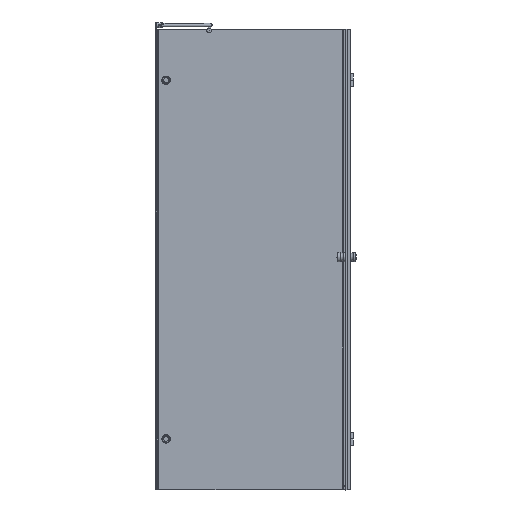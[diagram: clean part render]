
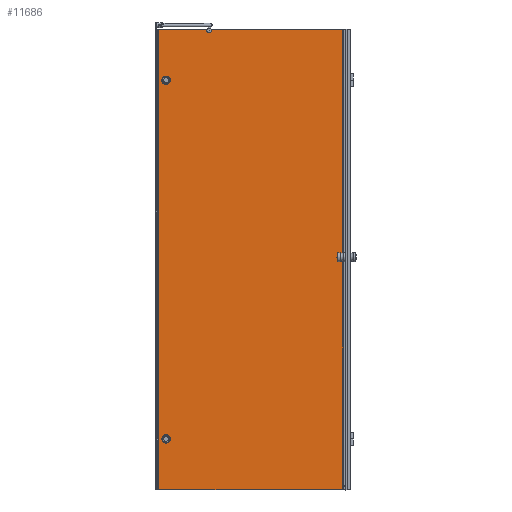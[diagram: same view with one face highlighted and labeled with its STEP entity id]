
A CAD part, left-side view. The second image highlights one B-rep face of the part: STEP entity #11686.
In plain terms, the highlighted planar face has unit normal (-1, 0, 0).
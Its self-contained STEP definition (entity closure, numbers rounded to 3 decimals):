
#47=PLANE($,#12383);
#543=LINE($,#16972,#1756);
#544=LINE($,#16974,#1757);
#545=LINE($,#16976,#1758);
#546=LINE($,#16980,#1759);
#547=LINE($,#16982,#1760);
#548=LINE($,#16990,#1761);
#549=LINE($,#16991,#1762);
#1756=VECTOR($,#13467,198.474);
#1757=VECTOR($,#13468,1900.);
#1758=VECTOR($,#13469,757.419);
#1759=VECTOR($,#13472,3.581);
#1760=VECTOR($,#13473,12.192);
#1761=VECTOR($,#13480,1884.733);
#1762=VECTOR($,#13481,546.666);
#3008=FACE_BOUND($,#3775,.T.);
#3009=FACE_BOUND($,#3776,.T.);
#3117=FACE_OUTER_BOUND($,#3774,.T.);
#3774=EDGE_LOOP($,(#7611,#7612,#7613,#7614,#7615,#7616,#7617,#7618,#7619,
#7620,#7621,#7622));
#3775=EDGE_LOOP($,(#7623));
#3776=EDGE_LOOP($,(#7624));
#4512=CIRCLE($,#12362,10.);
#4521=CIRCLE($,#12384,2.);
#4522=CIRCLE($,#12385,16.);
#4523=CIRCLE($,#12386,0.5);
#4524=CIRCLE($,#12387,16.);
#4525=CIRCLE($,#12388,15.);
#4526=CIRCLE($,#12389,15.);
#4889=VERTEX_POINT($,#16767);
#4890=VERTEX_POINT($,#16769);
#4907=VERTEX_POINT($,#16971);
#4908=VERTEX_POINT($,#16973);
#4909=VERTEX_POINT($,#16975);
#4910=VERTEX_POINT($,#16977);
#4911=VERTEX_POINT($,#16979);
#4912=VERTEX_POINT($,#16981);
#4913=VERTEX_POINT($,#16983);
#4914=VERTEX_POINT($,#16985);
#4915=VERTEX_POINT($,#16987);
#4916=VERTEX_POINT($,#16989);
#4917=VERTEX_POINT($,#16992);
#4918=VERTEX_POINT($,#16994);
#5921=EDGE_CURVE($,#4890,#4889,#4512,.T.);
#5945=EDGE_CURVE($,#4889,#4907,#543,.T.);
#5946=EDGE_CURVE($,#4907,#4908,#544,.T.);
#5947=EDGE_CURVE($,#4909,#4908,#545,.T.);
#5948=EDGE_CURVE($,#4909,#4910,#4521,.T.);
#5949=EDGE_CURVE($,#4910,#4911,#546,.T.);
#5950=EDGE_CURVE($,#4912,#4911,#547,.T.);
#5951=EDGE_CURVE($,#4912,#4913,#4522,.T.);
#5952=EDGE_CURVE($,#4913,#4914,#4523,.T.);
#5953=EDGE_CURVE($,#4914,#4915,#4524,.T.);
#5954=EDGE_CURVE($,#4916,#4915,#548,.T.);
#5955=EDGE_CURVE($,#4916,#4890,#549,.T.);
#5956=EDGE_CURVE($,#4917,#4917,#4525,.T.);
#5957=EDGE_CURVE($,#4918,#4918,#4526,.T.);
#7611=ORIENTED_EDGE($,*,*,#5921,.T.);
#7612=ORIENTED_EDGE($,*,*,#5945,.T.);
#7613=ORIENTED_EDGE($,*,*,#5946,.T.);
#7614=ORIENTED_EDGE($,*,*,#5947,.F.);
#7615=ORIENTED_EDGE($,*,*,#5948,.T.);
#7616=ORIENTED_EDGE($,*,*,#5949,.T.);
#7617=ORIENTED_EDGE($,*,*,#5950,.F.);
#7618=ORIENTED_EDGE($,*,*,#5951,.T.);
#7619=ORIENTED_EDGE($,*,*,#5952,.T.);
#7620=ORIENTED_EDGE($,*,*,#5953,.T.);
#7621=ORIENTED_EDGE($,*,*,#5954,.F.);
#7622=ORIENTED_EDGE($,*,*,#5955,.T.);
#7623=ORIENTED_EDGE($,*,*,#5956,.T.);
#7624=ORIENTED_EDGE($,*,*,#5957,.T.);
#11686=ADVANCED_FACE($,(#3117,#3008,#3009),#47,.T.);
#12362=AXIS2_PLACEMENT_3D($,#16770,#13416,#13417);
#12383=AXIS2_PLACEMENT_3D($,#16970,#13465,#13466);
#12384=AXIS2_PLACEMENT_3D($,#16978,#13470,#13471);
#12385=AXIS2_PLACEMENT_3D($,#16984,#13474,#13475);
#12386=AXIS2_PLACEMENT_3D($,#16986,#13476,#13477);
#12387=AXIS2_PLACEMENT_3D($,#16988,#13478,#13479);
#12388=AXIS2_PLACEMENT_3D($,#16993,#13482,#13483);
#12389=AXIS2_PLACEMENT_3D($,#16995,#13484,#13485);
#13416=DIRECTION('center_axis',(1.,0.,0.));
#13417=DIRECTION('ref_axis',(0.,0.597,0.802));
#13465=DIRECTION('center_axis',(-1.,0.,0.));
#13466=DIRECTION('ref_axis',(0.,1.,0.));
#13467=DIRECTION($,(0.,1.,0.));
#13468=DIRECTION($,(0.,0.,-1.));
#13469=DIRECTION($,(0.,1.,0.));
#13470=DIRECTION('center_axis',(1.,0.,0.));
#13471=DIRECTION('ref_axis',(0.,0.707,0.707));
#13472=DIRECTION($,(0.,-1.,0.));
#13473=DIRECTION($,(0.,0.,-1.));
#13474=DIRECTION('center_axis',(1.,0.,0.));
#13475=DIRECTION('ref_axis',(0.,-0.71,-0.704));
#13476=DIRECTION('center_axis',(1.,0.,0.));
#13477=DIRECTION('ref_axis',(0.,-0.169,-0.986));
#13478=DIRECTION('center_axis',(-1.,0.,0.));
#13479=DIRECTION('ref_axis',(0.,0.747,0.665));
#13480=DIRECTION($,(0.,0.,-1.));
#13481=DIRECTION($,(0.,1.,0.));
#13482=DIRECTION('center_axis',(1.,0.,0.));
#13483=DIRECTION('ref_axis',(0.,-1.,0.));
#13484=DIRECTION('center_axis',(1.,0.,0.));
#13485=DIRECTION('ref_axis',(0.,-1.,0.));
#16767=CARTESIAN_POINT('',(1452.876,535.482,1385.944));
#16769=CARTESIAN_POINT('',(1452.876,517.622,1385.944));
#16770=CARTESIAN_POINT('Origin',(1452.876,526.552,1381.444));
#16970=CARTESIAN_POINT('Origin',(1452.876,-29.044,1385.944));
#16971=CARTESIAN_POINT('',(1452.876,733.956,1385.944));
#16972=CARTESIAN_POINT($,(1452.876,-29.044,1385.944));
#16973=CARTESIAN_POINT('',(1452.876,733.956,-514.056));
#16974=CARTESIAN_POINT($,(1452.876,733.956,435.944));
#16975=CARTESIAN_POINT('',(1452.876,-23.463,-514.056));
#16976=CARTESIAN_POINT($,(1452.876,-29.044,-514.056));
#16977=CARTESIAN_POINT('',(1452.876,-25.463,-512.056));
#16978=CARTESIAN_POINT('Origin',(1452.876,-25.463,-514.056));
#16979=CARTESIAN_POINT('',(1452.876,-29.044,-512.056));
#16980=CARTESIAN_POINT($,(1452.876,-33.879,-512.056));
#16981=CARTESIAN_POINT('',(1452.876,-29.044,-499.863));
#16982=CARTESIAN_POINT($,(1452.876,-29.044,1385.944));
#16983=CARTESIAN_POINT('',(1452.876,-28.129,-500.048));
#16984=CARTESIAN_POINT('Origin',(1452.876,-25.419,-484.28));
#16985=CARTESIAN_POINT('',(1452.876,-27.939,-499.067));
#16986=CARTESIAN_POINT('Origin',(1452.876,-28.044,-499.556));
#16987=CARTESIAN_POINT('',(1452.876,-29.044,-498.789));
#16988=CARTESIAN_POINT('Origin',(1452.876,-24.589,-483.421));
#16989=CARTESIAN_POINT('',(1452.876,-29.044,1385.944));
#16990=CARTESIAN_POINT($,(1452.876,-29.044,1385.944));
#16991=CARTESIAN_POINT($,(1452.876,-29.044,1385.944));
#16992=CARTESIAN_POINT('',(1452.876,718.956,-304.056));
#16993=CARTESIAN_POINT('Origin',(1452.876,703.956,-304.056));
#16994=CARTESIAN_POINT('',(1452.876,718.956,1175.944));
#16995=CARTESIAN_POINT('Origin',(1452.876,703.956,1175.944));
